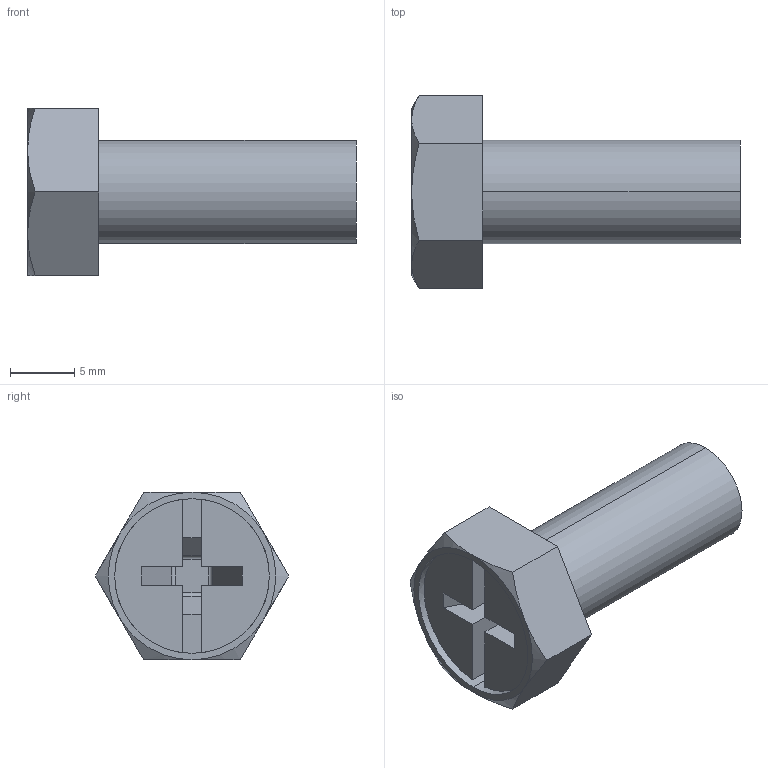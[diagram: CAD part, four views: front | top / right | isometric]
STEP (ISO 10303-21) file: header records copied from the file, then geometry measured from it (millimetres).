
FILE_DESCRIPTION (( 'STEP AP203' ), '1' );
FILE_NAME ('EB-951-8M20.STEP', '2013-12-26T07:29:37', ( 'SDS' ), ( 'SDS' ), 'SwSTEP 2.0', 'SolidWorks 2002296', '' );
FILE_SCHEMA (( 'CONFIG_CONTROL_DESIGN' ));
Length unit declared in the file: millimetre
Products named in the file (1): EB-951-8M20
Bounding box: 25.5 x 15.01 x 13 mm (x, y, z)
Volume: 1662.3 mm3; surface area: 1174.8 mm2
Topology: 1 solids, 1 shells, 40 faces, 102 edges, 66 vertices
Faces by surface type: plane 26, cylinder 8, cone 6
Entity records: 1293 total; most frequent: CARTESIAN_POINT 245, ORIENTED_EDGE 204, DIRECTION 198, EDGE_CURVE 102, AXIS2_PLACEMENT_3D 67, VERTEX_POINT 66, LINE 64, VECTOR 64
